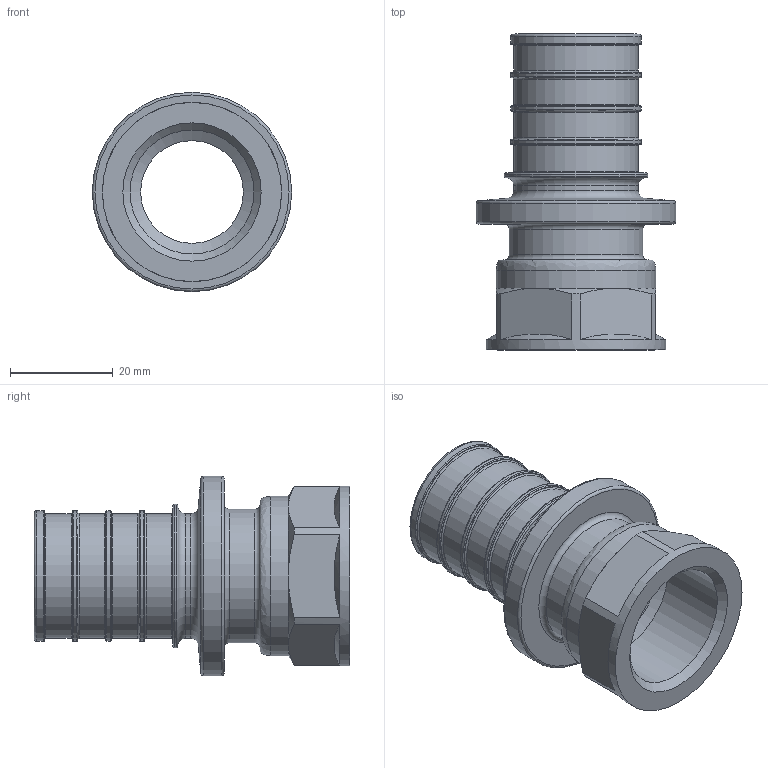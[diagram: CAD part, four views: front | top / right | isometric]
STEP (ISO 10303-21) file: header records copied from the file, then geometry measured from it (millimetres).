
FILE_DESCRIPTION(('STEP AP203'), '1');
FILE_NAME('ﾂﾐ.753124.014 - VTm.402.G.003205 ﾔ頸. 浯葢. G 3-4', '2024-01-23T13:18:39', ('Boss'), (''), 'C3D Converter', 'C3D Toolkit', '');
FILE_SCHEMA(('CONFIG_CONTROL_DESIGN'));
Length unit declared in the file: millimetre
Products named in the file (1): ВР.753124.014
Bounding box: 38.8 x 61.5 x 38.8 mm (x, y, z)
Volume: 17461.4 mm3; surface area: 12046.1 mm2
Topology: 1 solids, 1 shells, 75 faces, 151 edges, 88 vertices
Faces by surface type: torus 24, plane 18, cylinder 16, cone 16, bspline 1
Full cylindrical faces by diameter (mm): 20 x1, 24.118 x1, 24.3 x5, 25.5 x4, 26 x1, 27.9 x1, 31 x1, 34.9 x1, 38.8 x1
Entity records: 2385 total; most frequent: CARTESIAN_POINT 947, DIRECTION 314, ORIENTED_EDGE 212, AXIS2_PLACEMENT_3D 151, EDGE_LOOP 132, EDGE_CURVE 106, VERTEX_POINT 88, FACE_OUTER_BOUND 86
